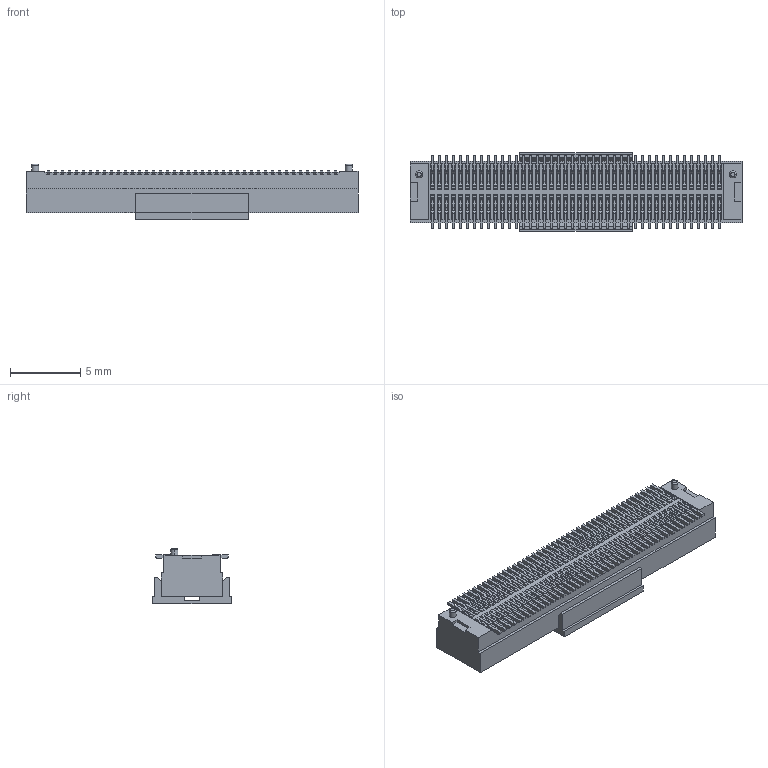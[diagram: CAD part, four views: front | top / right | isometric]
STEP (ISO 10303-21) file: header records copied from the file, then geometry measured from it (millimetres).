
FILE_DESCRIPTION(('CATIA V5 STEP Exchange'),'2;1');
FILE_NAME('F:\黄富鸿\板对板\PBB05\母座\H3.0\编带+盖\HC-PBB05-2-84-F-H3.0-G1-R-P-04（BTB0.5 双槽 母座 立贴 带柱 编带+盖）-HCTL.stp','2025-12-10T07:57:23+00:00',('none'),('none'),'CATIA Version 5 Release 20 GA (IN-10)','CATIA V5 STEP AP203','none');
FILE_SCHEMA(('CONFIG_CONTROL_DESIGN'));
Products named in the file (1): Part2
Bounding box: 23.7 x 5.6 x 3.95 mm (x, y, z)
Volume: 244 mm3; surface area: 1774.9 mm2
Topology: 86 solids, 86 shells, 5606 faces, 16622 edges, 11024 vertices
Faces by surface type: plane 3582, cylinder 2020, torus 4
Entity records: 158634 total; most frequent: ORIENTED_EDGE 33244, CARTESIAN_POINT 29225, DIRECTION 17426, EDGE_CURVE 16622, VECTOR 12238, LINE 12238, VERTEX_POINT 11024, EDGE_LOOP 5610
